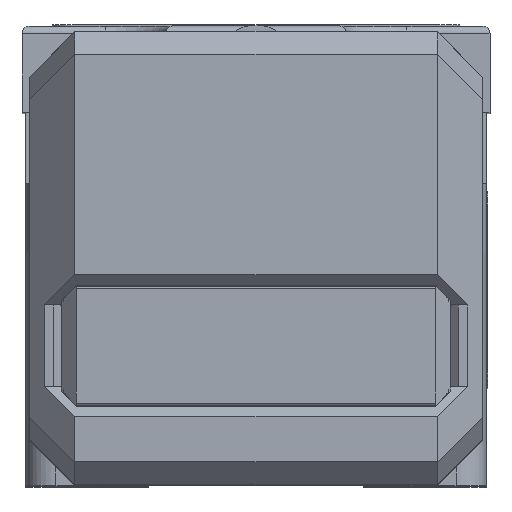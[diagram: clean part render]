
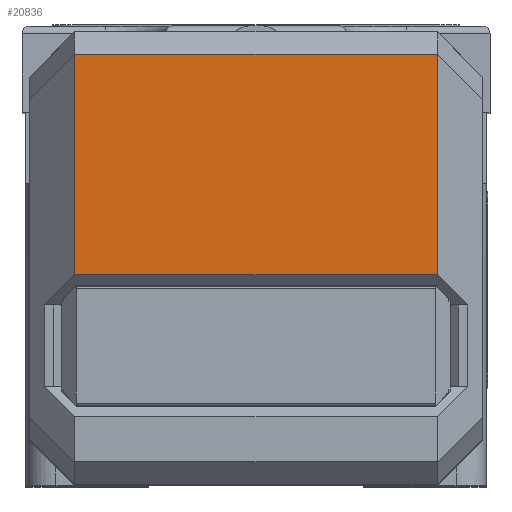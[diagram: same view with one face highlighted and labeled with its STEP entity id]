
A CAD part, top view. The second image highlights one B-rep face of the part: STEP entity #20836.
In plain terms, the highlighted planar face has unit normal (0, 0, 1).
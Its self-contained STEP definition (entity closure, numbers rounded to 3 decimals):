
#4415=DIRECTION('',(0.,1.,0.));
#4416=VECTOR('',#4415,14.6);
#4417=CARTESIAN_POINT('',(-12.,3.9,38.));
#4418=LINE('',#4417,#4416);
#4431=DIRECTION('',(0.,-1.,0.));
#4432=VECTOR('',#4431,14.6);
#4433=CARTESIAN_POINT('',(12.,18.5,38.));
#4434=LINE('',#4433,#4432);
#4451=DIRECTION('',(1.,0.,0.));
#4452=VECTOR('',#4451,24.);
#4453=CARTESIAN_POINT('',(-12.,3.9,38.));
#4454=LINE('',#4453,#4452);
#4455=DIRECTION('',(1.,0.,0.));
#4456=VECTOR('',#4455,24.);
#4457=CARTESIAN_POINT('',(-12.,18.5,38.));
#4458=LINE('',#4457,#4456);
#14533=CARTESIAN_POINT('',(-12.,18.5,38.));
#14534=CARTESIAN_POINT('',(12.,18.5,38.));
#14535=VERTEX_POINT('',#14533);
#14536=VERTEX_POINT('',#14534);
#14613=CARTESIAN_POINT('',(-12.,3.9,38.));
#14614=CARTESIAN_POINT('',(12.,3.9,38.));
#14615=VERTEX_POINT('',#14613);
#14616=VERTEX_POINT('',#14614);
#20824=CARTESIAN_POINT('',(0.,-10.,38.));
#20825=DIRECTION('',(0.,0.,-1.));
#20826=DIRECTION('',(1.,0.,0.));
#20827=AXIS2_PLACEMENT_3D('',#20824,#20825,#20826);
#20828=PLANE('',#20827);
#20829=ORIENTED_EDGE('',*,*,#18168,.F.);
#20830=ORIENTED_EDGE('',*,*,#20769,.T.);
#20832=ORIENTED_EDGE('',*,*,#20831,.T.);
#20833=ORIENTED_EDGE('',*,*,#20806,.T.);
#20834=EDGE_LOOP('',(#20829,#20830,#20832,#20833));
#20835=FACE_OUTER_BOUND('',#20834,.F.);
#18168=EDGE_CURVE('',#14615,#14616,#4454,.T.);
#20769=EDGE_CURVE('',#14615,#14535,#4418,.T.);
#20806=EDGE_CURVE('',#14536,#14616,#4434,.T.);
#20831=EDGE_CURVE('',#14535,#14536,#4458,.T.);
#20836=ADVANCED_FACE('',(#20835),#20828,.F.);
